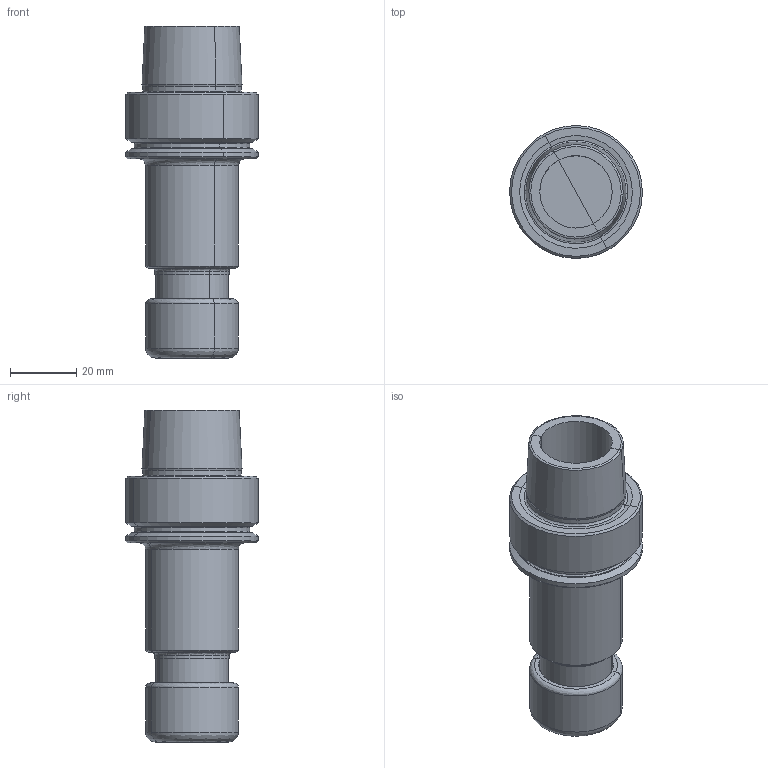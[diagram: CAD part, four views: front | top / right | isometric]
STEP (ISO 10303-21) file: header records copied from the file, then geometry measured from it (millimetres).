
FILE_DESCRIPTION(('CATIA V5 STEP','CAx-IF Rec.Pracs.--- Model Styling and Organization---1.2---2011-12-15'),'2;1');
FILE_NAME('\\nas01\drv1\utils\eitdev\rte\eit\transmagicconvert\db\out\635925049614683239\4504052 L.stp','2016-03-02T06:42:54+00:00',('none'),('none'),'CATIA Version 5 Release 21 SP 5 (IN-10)','CATIA V5 STEP AP214','none');
FILE_SCHEMA(('AUTOMOTIVE_DESIGN { 1 0 10303 214 1 1 1 1 }'));
Length unit declared in the file: millimetre
Products named in the file (1): HSK A 40 ER16X 80
Bounding box: 39.99 x 39.99 x 100 mm (x, y, z)
Volume: 56658 mm3; surface area: 15798.4 mm2
Topology: 1 solids, 1 shells, 87 faces, 171 edges, 86 vertices
Faces by surface type: revolution 66, plane 21
Entity records: 2695 total; most frequent: CARTESIAN_POINT 1110, ORIENTED_EDGE 342, DIRECTION 197, EDGE_CURVE 171, B_SPLINE_CURVE_WITH_KNOTS 134, AXIS2_PLACEMENT_3D 99, ADVANCED_FACE 87, EDGE_LOOP 87
